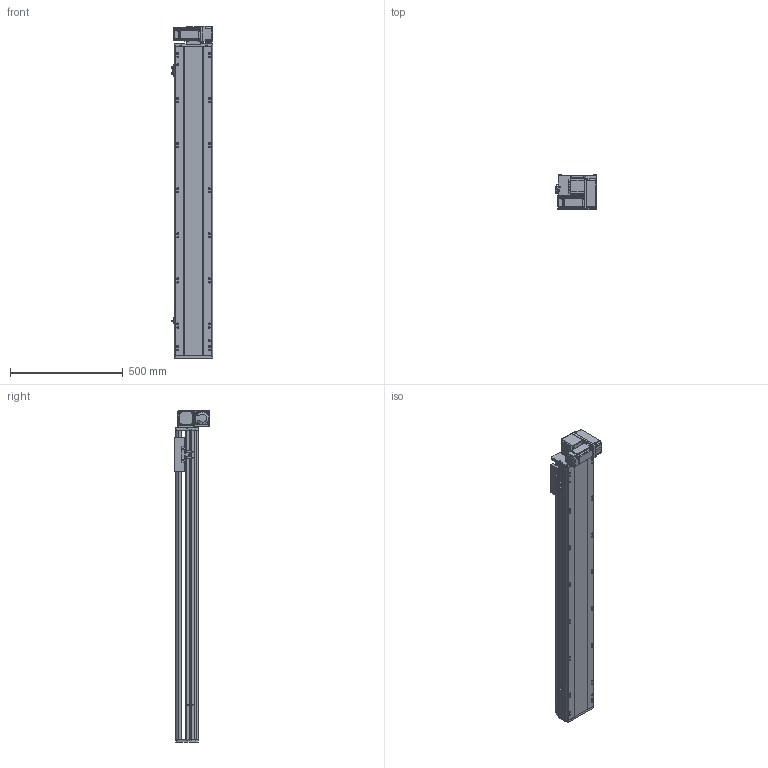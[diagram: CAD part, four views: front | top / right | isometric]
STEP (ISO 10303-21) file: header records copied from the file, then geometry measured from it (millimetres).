
FILE_DESCRIPTION (( 'STEP AP214' ), '1' );
FILE_NAME ('RTB17S-XX-1100-RM-M40-C4.STEP', '2025-12-11T08:17:05', ( '' ), ( '' ), 'SwSTEP 2.0', 'SolidWorks 2018', '' );
FILE_SCHEMA (( 'AUTOMOTIVE_DESIGN' ));
Length unit declared in the file: millimetre
Products named in the file (14): RTB14-L-008-M20--萇儂啣^RTB17S-RM-々湍釱蚾饜-400W_RTB17S-XX-XX-RM-M40-C4; RTH13-BL-012覜茼え俋离^RTB17S-XX-XX-RM-M40-C4; RTB17S-L-004佪裝蹟譫蟀諉釱^RTB17S-XX-XX-RM-M40-C4; RTB14-L-018P^RTB17S-RM-々湍釱蚾饜-400W_RTB17S-XX-XX-RM-M40-C4; RTB17S-L-014-T20--々湍釱^RTB17S-RM-々湍釱蚾饜-400W_RTB17S-XX-XX-RM-M40-C4; RTB17S-L-007奻裔^RTB17S-XX-XX-RM-M40-C4; RTB17S-L-001耜醱啣^RTB17S-XX-XX-RM-M40-C4; 400W侜督萇儂^RTB17S-XX-XX-RM-M40-C4; RTB14-L-017P^RTB17S-RM-々湍釱蚾饜-400W_RTB17S-XX-XX-RM-M40-C4; OMRON EE-SX672 传感器^RTB17S-XX-XX-RM-M40-C4; RTB17-R-011菁釱^RTB17S-XX-XX-RM-M40-C4; RTB17S-RM-々湍釱蚾饜-400W^RTB17S-XX-XX-RM-M40-C4; RTB17S-XX-1100-RM-M40-C4; RTB14-L-005P--轴承塑胶压盖^RTB17S-RM-皮带座装配-400W_RTB17S-XX-XX-RM-M40-C4
Assembly tree (16 placements, depth 3):
  RTB17S-XX-1100-RM-M40-C4
    RTB17-R-011菁釱^RTB17S-XX-XX-RM-M40-C4
    RTB17S-L-007奻裔^RTB17S-XX-XX-RM-M40-C4
    OMRON EE-SX672 传感器^RTB17S-XX-XX-RM-M40-C4  x3
    RTB17S-L-001耜醱啣^RTB17S-XX-XX-RM-M40-C4
    400W侜督萇儂^RTB17S-XX-XX-RM-M40-C4
    RTB17S-L-004佪裝蹟譫蟀諉釱^RTB17S-XX-XX-RM-M40-C4
    RTH13-BL-012覜茼え俋离^RTB17S-XX-XX-RM-M40-C4
    RTB17S-RM-々湍釱蚾饜-400W^RTB17S-XX-XX-RM-M40-C4
      RTB17S-L-014-T20--々湍釱^RTB17S-RM-々湍釱蚾饜-400W_RTB17S-XX-XX-RM-M40-C4
      RTB14-L-005P--轴承塑胶压盖^RTB17S-RM-皮带座装配-400W_RTB17S-XX-XX-RM-M40-C4
      RTB14-L-008-M20--萇儂啣^RTB17S-RM-々湍釱蚾饜-400W_RTB17S-XX-XX-RM-M40-C4
      RTB14-L-017P^RTB17S-RM-々湍釱蚾饜-400W_RTB17S-XX-XX-RM-M40-C4  x2
      RTB14-L-018P^RTB17S-RM-々湍釱蚾饜-400W_RTB17S-XX-XX-RM-M40-C4
Bounding box: 183.5 x 156.5 x 1472.5 mm (x, y, z)
Volume: 13187235.8 mm3; surface area: 1587893.3 mm2
Topology: 15 solids, 15 shells, 2221 faces, 6141 edges, 4005 vertices
Faces by surface type: plane 1070, cylinder 703, bspline 301, cone 139, torus 8
Entity records: 63401 total; most frequent: CARTESIAN_POINT 17746, ORIENTED_EDGE 9126, DIRECTION 8486, EDGE_CURVE 4563, VERTEX_POINT 2993, AXIS2_PLACEMENT_3D 2923, VECTOR 2640, LINE 2640
